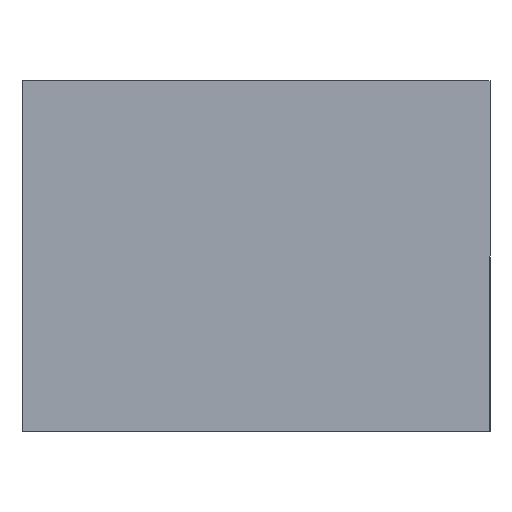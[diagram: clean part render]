
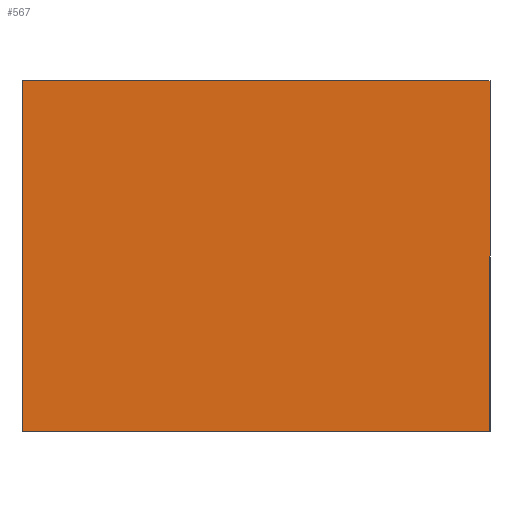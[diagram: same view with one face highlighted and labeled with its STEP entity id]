
A CAD part, front view. The second image highlights one B-rep face of the part: STEP entity #567.
In plain terms, the highlighted planar face has unit normal (0, -1, 0).
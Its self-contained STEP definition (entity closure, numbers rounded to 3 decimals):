
#18 = VERTEX_POINT ( 'NONE', #1974 ) ;
#50 = PLANE ( 'NONE',  #535 ) ;
#131 = CARTESIAN_POINT ( 'NONE',  ( 100., 0., 75. ) ) ;
#176 = FACE_OUTER_BOUND ( 'NONE', #1093, .T. ) ;
#231 = VECTOR ( 'NONE', #1778, 1000. ) ;
#251 = EDGE_CURVE ( 'NONE', #2312, #18, #1094, .T. ) ;
#364 = DIRECTION ( 'NONE',  ( 0., 0., 1. ) ) ;
#373 = CARTESIAN_POINT ( 'NONE',  ( -100., 0., 75. ) ) ;
#393 = ORIENTED_EDGE ( 'NONE', *, *, #1679, .F. ) ;
#437 = VECTOR ( 'NONE', #364, 1000. ) ;
#532 = CARTESIAN_POINT ( 'NONE',  ( -100., 0., -75. ) ) ;
#535 = AXIS2_PLACEMENT_3D ( 'NONE', #1036, #2626, #2602 ) ;
#543 = ORIENTED_EDGE ( 'NONE', *, *, #2404, .F. ) ;
#567 = ADVANCED_FACE ( 'NONE', ( #176 ), #50, .F. ) ;
#574 = DIRECTION ( 'NONE',  ( -1., 0., 0. ) ) ;
#670 = CARTESIAN_POINT ( 'NONE',  ( -100., 0., -75. ) ) ;
#743 = LINE ( 'NONE', #373, #231 ) ;
#1036 = CARTESIAN_POINT ( 'NONE',  ( 0., 0., 0. ) ) ;
#1073 = ORIENTED_EDGE ( 'NONE', *, *, #251, .F. ) ;
#1093 = EDGE_LOOP ( 'NONE', ( #1073, #393, #543, #1105 ) ) ;
#1094 = LINE ( 'NONE', #2335, #2141 ) ;
#1105 = ORIENTED_EDGE ( 'NONE', *, *, #1349, .F. ) ;
#1206 = CARTESIAN_POINT ( 'NONE',  ( -100., 0., 75. ) ) ;
#1349 = EDGE_CURVE ( 'NONE', #18, #1421, #2526, .T. ) ;
#1421 = VERTEX_POINT ( 'NONE', #532 ) ;
#1555 = LINE ( 'NONE', #1765, #437 ) ;
#1592 = VECTOR ( 'NONE', #574, 1000. ) ;
#1679 = EDGE_CURVE ( 'NONE', #2173, #2312, #743, .T. ) ;
#1765 = CARTESIAN_POINT ( 'NONE',  ( -100., 0., -75. ) ) ;
#1778 = DIRECTION ( 'NONE',  ( 1., 0., 0. ) ) ;
#1888 = DIRECTION ( 'NONE',  ( 0., 0., -1. ) ) ;
#1974 = CARTESIAN_POINT ( 'NONE',  ( 100., 0., -75. ) ) ;
#2141 = VECTOR ( 'NONE', #1888, 1000. ) ;
#2173 = VERTEX_POINT ( 'NONE', #1206 ) ;
#2312 = VERTEX_POINT ( 'NONE', #131 ) ;
#2335 = CARTESIAN_POINT ( 'NONE',  ( 100., 0., -75. ) ) ;
#2404 = EDGE_CURVE ( 'NONE', #1421, #2173, #1555, .T. ) ;
#2526 = LINE ( 'NONE', #670, #1592 ) ;
#2602 = DIRECTION ( 'NONE',  ( 0., 0., 1. ) ) ;
#2626 = DIRECTION ( 'NONE',  ( 0., 1., 0. ) ) ;
